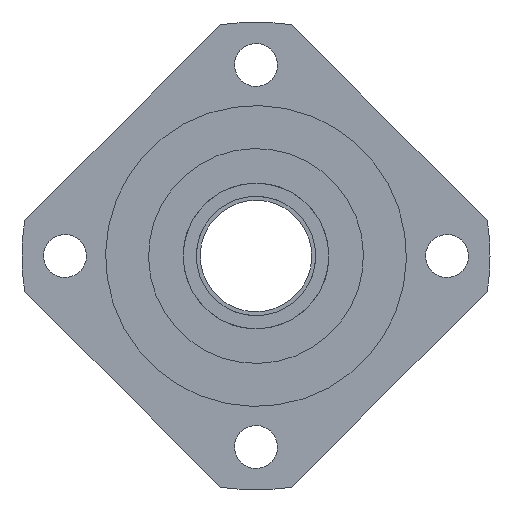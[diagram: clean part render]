
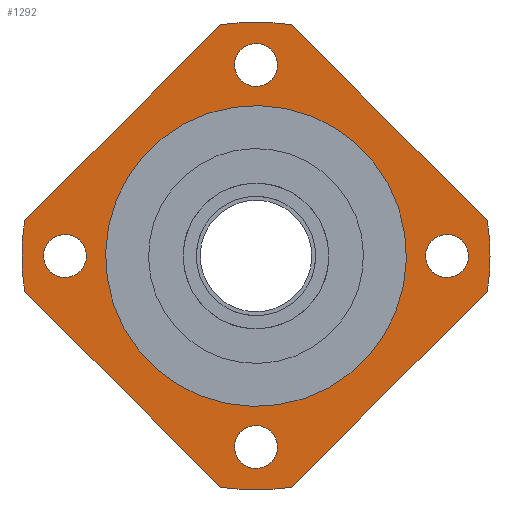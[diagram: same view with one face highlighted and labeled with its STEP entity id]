
A CAD part, left-side view. The second image highlights one B-rep face of the part: STEP entity #1292.
In plain terms, the highlighted planar face has unit normal (-1, 0, 0).
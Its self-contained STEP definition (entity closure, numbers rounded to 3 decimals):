
#79=CARTESIAN_POINT('Vertex',(-27.,-7.428,-48.434)) ;
#82=CARTESIAN_POINT('Axis2P3D Location',(-27.,0.,0.)) ;
#86=CARTESIAN_POINT('Vertex',(-27.,7.428,-48.434)) ;
#112=CARTESIAN_POINT('Vertex',(-27.,-48.434,-7.428)) ;
#115=CARTESIAN_POINT('Line Origine',(-27.,-27.931,-27.931)) ;
#143=CARTESIAN_POINT('Vertex',(-27.,-49.,0.)) ;
#146=CARTESIAN_POINT('Axis2P3D Location',(-27.,0.,0.)) ;
#169=CARTESIAN_POINT('Vertex',(-27.,-48.434,7.428)) ;
#172=CARTESIAN_POINT('Axis2P3D Location',(-27.,0.,0.)) ;
#195=CARTESIAN_POINT('Vertex',(-27.,-7.428,48.434)) ;
#198=CARTESIAN_POINT('Line Origine',(-27.,-27.931,27.931)) ;
#226=CARTESIAN_POINT('Vertex',(-27.,7.428,48.434)) ;
#229=CARTESIAN_POINT('Axis2P3D Location',(-27.,0.,0.)) ;
#252=CARTESIAN_POINT('Vertex',(-27.,48.434,7.428)) ;
#255=CARTESIAN_POINT('Line Origine',(-27.,27.931,27.931)) ;
#283=CARTESIAN_POINT('Vertex',(-27.,49.,0.)) ;
#286=CARTESIAN_POINT('Axis2P3D Location',(-27.,0.,0.)) ;
#309=CARTESIAN_POINT('Vertex',(-27.,48.434,-7.428)) ;
#312=CARTESIAN_POINT('Axis2P3D Location',(-27.,0.,0.)) ;
#808=CARTESIAN_POINT('Axis2P3D Location',(-27.,-40.,0.)) ;
#812=CARTESIAN_POINT('Vertex',(-27.,-42.157,-3.949)) ;
#814=CARTESIAN_POINT('Vertex',(-27.,-37.843,3.949)) ;
#834=CARTESIAN_POINT('Axis2P3D Location',(-27.,-40.,0.)) ;
#851=CARTESIAN_POINT('Axis2P3D Location',(-27.,0.,-40.)) ;
#855=CARTESIAN_POINT('Vertex',(-27.,3.949,-42.157)) ;
#857=CARTESIAN_POINT('Vertex',(-27.,-3.949,-37.843)) ;
#877=CARTESIAN_POINT('Axis2P3D Location',(-27.,0.,-40.)) ;
#894=CARTESIAN_POINT('Axis2P3D Location',(-27.,40.,0.)) ;
#898=CARTESIAN_POINT('Vertex',(-27.,42.157,3.949)) ;
#900=CARTESIAN_POINT('Vertex',(-27.,37.843,-3.949)) ;
#920=CARTESIAN_POINT('Axis2P3D Location',(-27.,40.,0.)) ;
#941=CARTESIAN_POINT('Vertex',(-27.,-15.102,-27.644)) ;
#944=CARTESIAN_POINT('Axis2P3D Location',(-27.,0.,0.)) ;
#948=CARTESIAN_POINT('Vertex',(-27.,15.102,27.644)) ;
#963=CARTESIAN_POINT('Axis2P3D Location',(-27.,0.,0.)) ;
#980=CARTESIAN_POINT('Axis2P3D Location',(-27.,0.,40.)) ;
#984=CARTESIAN_POINT('Vertex',(-27.,-3.949,42.157)) ;
#986=CARTESIAN_POINT('Vertex',(-27.,3.949,37.843)) ;
#1006=CARTESIAN_POINT('Axis2P3D Location',(-27.,0.,40.)) ;
#1238=CARTESIAN_POINT('Line Origine',(-27.,27.931,-27.931)) ;
#1255=CARTESIAN_POINT('Axis2P3D Location',(-27.,0.,82.621)) ;
#83=DIRECTION('Axis2P3D Direction',(1.,0.,0.)) ;
#116=DIRECTION('Vector Direction',(0.,-0.707,0.707)) ;
#147=DIRECTION('Axis2P3D Direction',(1.,0.,0.)) ;
#173=DIRECTION('Axis2P3D Direction',(1.,0.,0.)) ;
#199=DIRECTION('Vector Direction',(0.,0.707,0.707)) ;
#230=DIRECTION('Axis2P3D Direction',(1.,0.,0.)) ;
#256=DIRECTION('Vector Direction',(0.,0.707,-0.707)) ;
#287=DIRECTION('Axis2P3D Direction',(1.,0.,0.)) ;
#313=DIRECTION('Axis2P3D Direction',(1.,0.,0.)) ;
#809=DIRECTION('Axis2P3D Direction',(-1.,0.,0.)) ;
#835=DIRECTION('Axis2P3D Direction',(-1.,0.,0.)) ;
#852=DIRECTION('Axis2P3D Direction',(-1.,-0.,0.)) ;
#878=DIRECTION('Axis2P3D Direction',(-1.,-0.,0.)) ;
#895=DIRECTION('Axis2P3D Direction',(-1.,0.,-0.)) ;
#921=DIRECTION('Axis2P3D Direction',(-1.,0.,-0.)) ;
#945=DIRECTION('Axis2P3D Direction',(-1.,0.,0.)) ;
#964=DIRECTION('Axis2P3D Direction',(-1.,0.,0.)) ;
#981=DIRECTION('Axis2P3D Direction',(-1.,0.,-0.)) ;
#1007=DIRECTION('Axis2P3D Direction',(-1.,0.,-0.)) ;
#1239=DIRECTION('Vector Direction',(0.,-0.707,-0.707)) ;
#1256=DIRECTION('Axis2P3D Direction',(-1.,0.,0.)) ;
#1257=DIRECTION('Axis2P3D XDirection',(0.,1.,0.)) ;
#84=AXIS2_PLACEMENT_3D('Circle Axis2P3D',#82,#83,$) ;
#148=AXIS2_PLACEMENT_3D('Circle Axis2P3D',#146,#147,$) ;
#174=AXIS2_PLACEMENT_3D('Circle Axis2P3D',#172,#173,$) ;
#231=AXIS2_PLACEMENT_3D('Circle Axis2P3D',#229,#230,$) ;
#288=AXIS2_PLACEMENT_3D('Circle Axis2P3D',#286,#287,$) ;
#314=AXIS2_PLACEMENT_3D('Circle Axis2P3D',#312,#313,$) ;
#810=AXIS2_PLACEMENT_3D('Circle Axis2P3D',#808,#809,$) ;
#836=AXIS2_PLACEMENT_3D('Circle Axis2P3D',#834,#835,$) ;
#853=AXIS2_PLACEMENT_3D('Circle Axis2P3D',#851,#852,$) ;
#879=AXIS2_PLACEMENT_3D('Circle Axis2P3D',#877,#878,$) ;
#896=AXIS2_PLACEMENT_3D('Circle Axis2P3D',#894,#895,$) ;
#922=AXIS2_PLACEMENT_3D('Circle Axis2P3D',#920,#921,$) ;
#946=AXIS2_PLACEMENT_3D('Circle Axis2P3D',#944,#945,$) ;
#965=AXIS2_PLACEMENT_3D('Circle Axis2P3D',#963,#964,$) ;
#982=AXIS2_PLACEMENT_3D('Circle Axis2P3D',#980,#981,$) ;
#1008=AXIS2_PLACEMENT_3D('Circle Axis2P3D',#1006,#1007,$) ;
#1258=AXIS2_PLACEMENT_3D('Plane Axis2P3D',#1255,#1256,#1257) ;
#1261=ORIENTED_EDGE('',*,*,#88,.T.) ;
#1262=ORIENTED_EDGE('',*,*,#119,.T.) ;
#1263=ORIENTED_EDGE('',*,*,#150,.T.) ;
#1264=ORIENTED_EDGE('',*,*,#176,.T.) ;
#1265=ORIENTED_EDGE('',*,*,#202,.T.) ;
#1266=ORIENTED_EDGE('',*,*,#233,.T.) ;
#1267=ORIENTED_EDGE('',*,*,#259,.T.) ;
#1268=ORIENTED_EDGE('',*,*,#290,.T.) ;
#1269=ORIENTED_EDGE('',*,*,#316,.T.) ;
#1270=ORIENTED_EDGE('',*,*,#1242,.T.) ;
#1273=ORIENTED_EDGE('',*,*,#1010,.F.) ;
#1274=ORIENTED_EDGE('',*,*,#988,.F.) ;
#1277=ORIENTED_EDGE('',*,*,#967,.F.) ;
#1278=ORIENTED_EDGE('',*,*,#950,.F.) ;
#1281=ORIENTED_EDGE('',*,*,#924,.F.) ;
#1282=ORIENTED_EDGE('',*,*,#902,.F.) ;
#1285=ORIENTED_EDGE('',*,*,#881,.F.) ;
#1286=ORIENTED_EDGE('',*,*,#859,.F.) ;
#1289=ORIENTED_EDGE('',*,*,#838,.F.) ;
#1290=ORIENTED_EDGE('',*,*,#816,.F.) ;
#1275=FACE_BOUND('',#1272,.T.) ;
#1279=FACE_BOUND('',#1276,.T.) ;
#1283=FACE_BOUND('',#1280,.T.) ;
#1287=FACE_BOUND('',#1284,.T.) ;
#1291=FACE_BOUND('',#1288,.T.) ;
#117=VECTOR('Line Direction',#116,1.) ;
#200=VECTOR('Line Direction',#199,1.) ;
#257=VECTOR('Line Direction',#256,1.) ;
#1240=VECTOR('Line Direction',#1239,1.) ;
#1292=ADVANCED_FACE('FK25T(H)',(#1271,#1275,#1279,#1283,#1287,#1291),#1259,.T.) ;
#85=CIRCLE('generated circle',#84,49.) ;
#149=CIRCLE('generated circle',#148,49.) ;
#175=CIRCLE('generated circle',#174,49.) ;
#232=CIRCLE('generated circle',#231,49.) ;
#289=CIRCLE('generated circle',#288,49.) ;
#315=CIRCLE('generated circle',#314,49.) ;
#811=CIRCLE('generated circle',#810,4.5) ;
#837=CIRCLE('generated circle',#836,4.5) ;
#854=CIRCLE('generated circle',#853,4.5) ;
#880=CIRCLE('generated circle',#879,4.5) ;
#897=CIRCLE('generated circle',#896,4.5) ;
#923=CIRCLE('generated circle',#922,4.5) ;
#947=CIRCLE('generated circle',#946,31.5) ;
#966=CIRCLE('generated circle',#965,31.5) ;
#983=CIRCLE('generated circle',#982,4.5) ;
#1009=CIRCLE('generated circle',#1008,4.5) ;
#88=EDGE_CURVE('',#87,#80,#85,.F.) ;
#119=EDGE_CURVE('',#80,#113,#118,.T.) ;
#150=EDGE_CURVE('',#113,#144,#149,.F.) ;
#176=EDGE_CURVE('',#144,#170,#175,.F.) ;
#202=EDGE_CURVE('',#170,#196,#201,.T.) ;
#233=EDGE_CURVE('',#196,#227,#232,.F.) ;
#259=EDGE_CURVE('',#227,#253,#258,.T.) ;
#290=EDGE_CURVE('',#253,#284,#289,.F.) ;
#316=EDGE_CURVE('',#284,#310,#315,.F.) ;
#816=EDGE_CURVE('',#813,#815,#811,.T.) ;
#838=EDGE_CURVE('',#815,#813,#837,.T.) ;
#859=EDGE_CURVE('',#856,#858,#854,.T.) ;
#881=EDGE_CURVE('',#858,#856,#880,.T.) ;
#902=EDGE_CURVE('',#899,#901,#897,.T.) ;
#924=EDGE_CURVE('',#901,#899,#923,.T.) ;
#950=EDGE_CURVE('',#942,#949,#947,.T.) ;
#967=EDGE_CURVE('',#949,#942,#966,.T.) ;
#988=EDGE_CURVE('',#985,#987,#983,.T.) ;
#1010=EDGE_CURVE('',#987,#985,#1009,.T.) ;
#1242=EDGE_CURVE('',#310,#87,#1241,.T.) ;
#1260=EDGE_LOOP('',(#1261,#1262,#1263,#1264,#1265,#1266,#1267,#1268,#1269,#1270)) ;
#1272=EDGE_LOOP('',(#1273,#1274)) ;
#1276=EDGE_LOOP('',(#1277,#1278)) ;
#1280=EDGE_LOOP('',(#1281,#1282)) ;
#1284=EDGE_LOOP('',(#1285,#1286)) ;
#1288=EDGE_LOOP('',(#1289,#1290)) ;
#1271=FACE_OUTER_BOUND('',#1260,.T.) ;
#118=LINE('Line',#115,#117) ;
#201=LINE('Line',#198,#200) ;
#258=LINE('Line',#255,#257) ;
#1241=LINE('Line',#1238,#1240) ;
#1259=PLANE('Plane',#1258) ;
#80=VERTEX_POINT('',#79) ;
#87=VERTEX_POINT('',#86) ;
#113=VERTEX_POINT('',#112) ;
#144=VERTEX_POINT('',#143) ;
#170=VERTEX_POINT('',#169) ;
#196=VERTEX_POINT('',#195) ;
#227=VERTEX_POINT('',#226) ;
#253=VERTEX_POINT('',#252) ;
#284=VERTEX_POINT('',#283) ;
#310=VERTEX_POINT('',#309) ;
#813=VERTEX_POINT('',#812) ;
#815=VERTEX_POINT('',#814) ;
#856=VERTEX_POINT('',#855) ;
#858=VERTEX_POINT('',#857) ;
#899=VERTEX_POINT('',#898) ;
#901=VERTEX_POINT('',#900) ;
#942=VERTEX_POINT('',#941) ;
#949=VERTEX_POINT('',#948) ;
#985=VERTEX_POINT('',#984) ;
#987=VERTEX_POINT('',#986) ;
